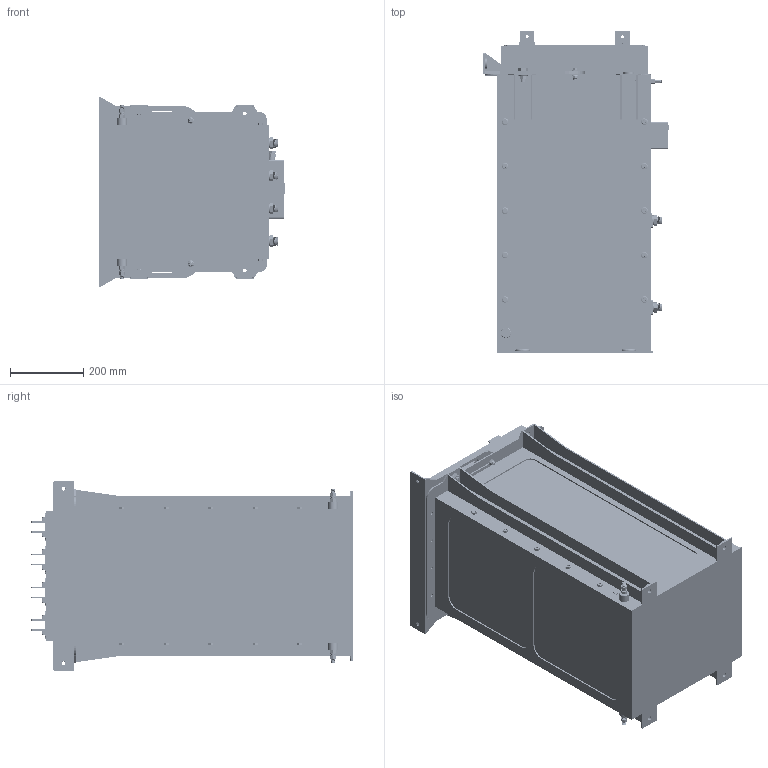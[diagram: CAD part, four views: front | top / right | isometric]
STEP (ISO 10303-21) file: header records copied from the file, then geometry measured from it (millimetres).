
FILE_DESCRIPTION (( 'STEP AP203' ), '1' );
FILE_NAME ('倳昃4 IP 21.STEP', '2024-04-05T18:59:31', ( '' ), ( '' ), 'SwSTEP 2.0', 'SolidWorks 2020', '' );
FILE_SCHEMA (( 'CONFIG_CONTROL_DESIGN' ));
Products named in the file (1): 倳昃4 IP 21
Bounding box: 505 x 877.22 x 516 mm (x, y, z)
Volume: 121500296.1 mm3; surface area: 6730033.5 mm2
Topology: 238 solids, 386 shells, 16658 faces, 41342 edges, 26245 vertices
Faces by surface type: cylinder 7704, plane 6226, torus 1004, cone 924, bspline 760, sphere 40
Entity records: 851776 total; most frequent: CARTESIAN_POINT 478930, ORIENTED_EDGE 82092, DIRECTION 74159, EDGE_CURVE 41046, AXIS2_PLACEMENT_3D 27344, VERTEX_POINT 26245, VECTOR 19471, LINE 19471
